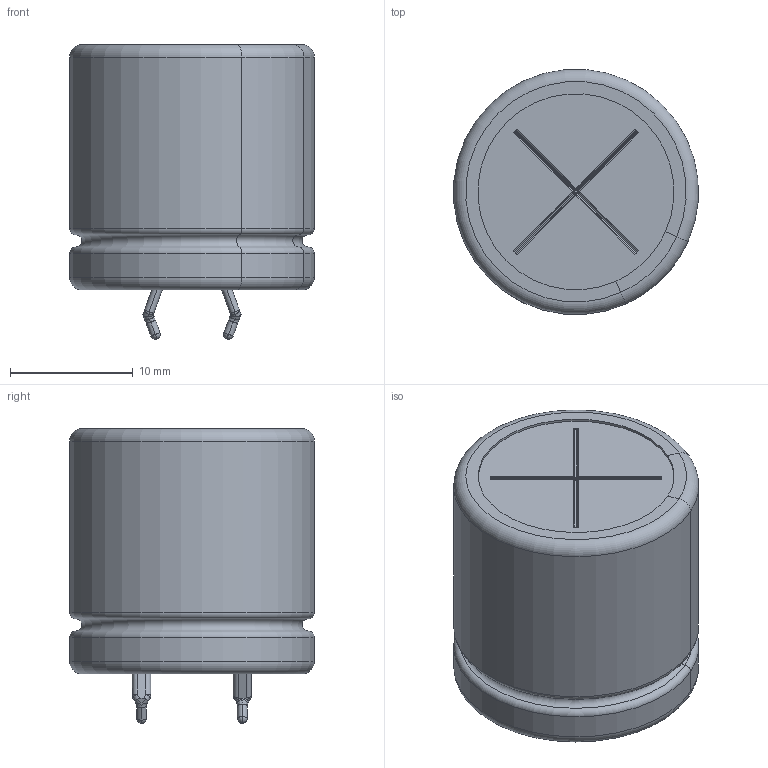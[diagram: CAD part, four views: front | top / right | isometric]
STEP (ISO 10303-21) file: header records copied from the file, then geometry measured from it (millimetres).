
FILE_DESCRIPTION(/* description */ (''),/* implementation_level */ '2;1');
FILE_NAME(/* name */ '20x20_Snap.stp',/* time_stamp */ '2017-09-11T13:32:40+09:00',/* author */ (''),/* organization */ (''),/* preprocessor_version */ 'ST-DEVELOPER v16',/* originating_system */ 'SIEMENS PLM Software NX 11.0',/* authorisation */ '');
FILE_SCHEMA (('AUTOMOTIVE_DESIGN { 1 0 10303 214 3 1 1 1 }'));
Length unit declared in the file: millimetre
Products named in the file (1): 20x20_Snap_0
Bounding box: 19.94 x 19.94 x 24.02 mm (x, y, z)
Volume: 6127.5 mm3; surface area: 4956.9 mm2
Topology: 5 solids, 5 shells, 208 faces, 523 edges, 310 vertices
Faces by surface type: cylinder 76, plane 75, torus 25, sphere 20, bspline 12
Full cylindrical faces by diameter (mm): 4 x2, 19.6 x2
Entity records: 6789 total; most frequent: CARTESIAN_POINT 1265, DIRECTION 1128, ORIENTED_EDGE 988, EDGE_CURVE 494, AXIS2_PLACEMENT_3D 437, VERTEX_POINT 310, LINE 254, VECTOR 254
